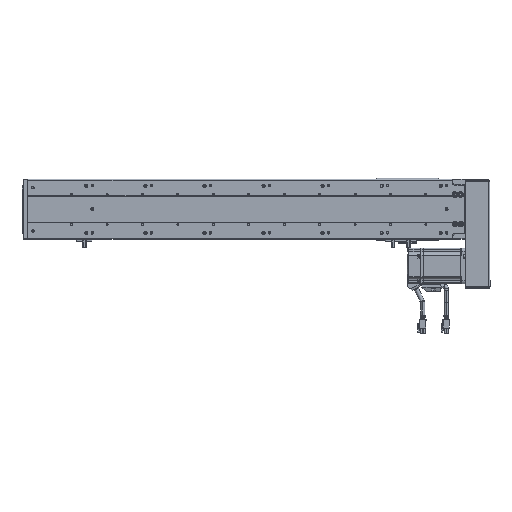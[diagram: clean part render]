
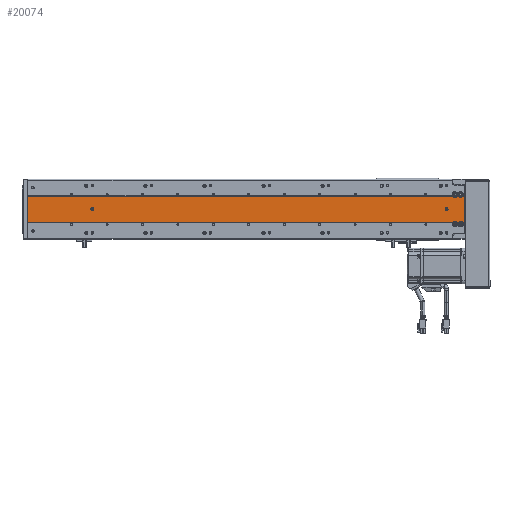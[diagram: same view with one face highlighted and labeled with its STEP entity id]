
A CAD part, front view. The second image highlights one B-rep face of the part: STEP entity #20074.
In plain terms, the highlighted planar face has unit normal (0, -1, 0).
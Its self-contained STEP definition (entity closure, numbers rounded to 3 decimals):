
#3538 = CARTESIAN_POINT ( 'NONE',  ( 161.989, 89.548, 739. ) ) ;
#3555 = DIRECTION ( 'NONE',  ( 0., 1., 0. ) ) ;
#3571 = PLANE ( 'NONE',  #86597 ) ;
#3591 = DIRECTION ( 'NONE',  ( -1., 0., 0. ) ) ;
#11712 = CARTESIAN_POINT ( 'NONE',  ( 118.817, 89.548, 739. ) ) ;
#11766 = DIRECTION ( 'NONE',  ( 0., 0., -1. ) ) ;
#11873 = CARTESIAN_POINT ( 'NONE',  ( 118.817, 89.548, 739. ) ) ;
#11914 = DIRECTION ( 'NONE',  ( 0., 0., -1. ) ) ;
#12749 = VECTOR ( 'NONE', #11766, 1000. ) ;
#12752 = LINE ( 'NONE', #11712, #12749 ) ;
#12759 = LINE ( 'NONE', #13686, #12782 ) ;
#12782 = VECTOR ( 'NONE', #13622, 1000. ) ;
#12841 = LINE ( 'NONE', #11873, #12854 ) ;
#12854 = VECTOR ( 'NONE', #11914, 1000. ) ;
#13622 = DIRECTION ( 'NONE',  ( 0., 0., -1. ) ) ;
#13686 = CARTESIAN_POINT ( 'NONE',  ( 161.989, 89.548, 739. ) ) ;
#14187 = CARTESIAN_POINT ( 'NONE',  ( 161.989, 89.548, 739. ) ) ;
#14194 = DIRECTION ( 'NONE',  ( 0., 0., -1. ) ) ;
#14385 = CARTESIAN_POINT ( 'NONE',  ( 161.989, 89.548, 739. ) ) ;
#14390 = DIRECTION ( 'NONE',  ( 1., 0., 0. ) ) ;
#14688 = CARTESIAN_POINT ( 'NONE',  ( 140.403, 89.548, 109. ) ) ;
#14694 = DIRECTION ( 'NONE',  ( 1., 0., 0. ) ) ;
#14715 = CARTESIAN_POINT ( 'NONE',  ( 140.403, 89.548, 709. ) ) ;
#14725 = DIRECTION ( 'NONE',  ( 0., -1., 0. ) ) ;
#14728 = DIRECTION ( 'NONE',  ( 0., -1., 0. ) ) ;
#14732 = DIRECTION ( 'NONE',  ( 1., 0., 0. ) ) ;
#19484 = FACE_BOUND ( 'NONE', #77305, .T. ) ;
#19555 = FACE_BOUND ( 'NONE', #77259, .T. ) ;
#19586 = FACE_OUTER_BOUND ( 'NONE', #77301, .T. ) ;
#20074 = ADVANCED_FACE ( 'NONE', ( #19484, #19555, #19586 ), #3571, .F. ) ;
#20995 = LINE ( 'NONE', #14385, #21037 ) ;
#21037 = VECTOR ( 'NONE', #14390, 1000. ) ;
#21212 = CIRCLE ( 'NONE', #70324, 2.5 ) ;
#21215 = CIRCLE ( 'NONE', #70288, 2.5 ) ;
#21528 = LINE ( 'NONE', #14187, #21535 ) ;
#21535 = VECTOR ( 'NONE', #14194, 1000. ) ;
#21701 = CIRCLE ( 'NONE', #69424, 4.75 ) ;
#21720 = VECTOR ( 'NONE', #25438, 1000. ) ;
#21746 = LINE ( 'NONE', #25378, #21720 ) ;
#21774 = LINE ( 'NONE', #25664, #21790 ) ;
#21790 = VECTOR ( 'NONE', #25713, 1000. ) ;
#21805 = CIRCLE ( 'NONE', #69371, 4.75 ) ;
#21869 = CIRCLE ( 'NONE', #69428, 2.5 ) ;
#21912 = VECTOR ( 'NONE', #26002, 1000. ) ;
#21915 = LINE ( 'NONE', #25996, #21912 ) ;
#25323 = CARTESIAN_POINT ( 'NONE',  ( 140.403, 89.548, 709. ) ) ;
#25348 = DIRECTION ( 'NONE',  ( 1., 0., 0. ) ) ;
#25371 = DIRECTION ( 'NONE',  ( 0., -1., 0. ) ) ;
#25378 = CARTESIAN_POINT ( 'NONE',  ( 118.817, 89.548, 739. ) ) ;
#25438 = DIRECTION ( 'NONE',  ( 0., 0., -1. ) ) ;
#25479 = DIRECTION ( 'NONE',  ( 0., 1., 0. ) ) ;
#25512 = CARTESIAN_POINT ( 'NONE',  ( 115.403, 89.548, 733. ) ) ;
#25514 = DIRECTION ( 'NONE',  ( -1., 0., 0. ) ) ;
#25664 = CARTESIAN_POINT ( 'NONE',  ( 161.989, 89.548, 739. ) ) ;
#25681 = CARTESIAN_POINT ( 'NONE',  ( 115.403, 89.548, 723. ) ) ;
#25687 = DIRECTION ( 'NONE',  ( -1., 0., 0. ) ) ;
#25713 = DIRECTION ( 'NONE',  ( 0., 0., -1. ) ) ;
#25731 = DIRECTION ( 'NONE',  ( 0., 1., 0. ) ) ;
#25735 = DIRECTION ( 'NONE',  ( 1., 0., 0. ) ) ;
#25774 = DIRECTION ( 'NONE',  ( 0., -1., 0. ) ) ;
#25804 = CARTESIAN_POINT ( 'NONE',  ( 140.403, 89.548, 109. ) ) ;
#25996 = CARTESIAN_POINT ( 'NONE',  ( 161.989, 89.548, 0. ) ) ;
#26002 = DIRECTION ( 'NONE',  ( 1., 0., 0. ) ) ;
#29385 = CIRCLE ( 'NONE', #69475, 2.5 ) ;
#35596 = VERTEX_POINT ( 'NONE', #64203 ) ;
#37196 = ORIENTED_EDGE ( 'NONE', *, *, #73383, .F. ) ;
#37197 = ORIENTED_EDGE ( 'NONE', *, *, #74628, .F. ) ;
#37209 = ORIENTED_EDGE ( 'NONE', *, *, #74681, .F. ) ;
#37212 = ORIENTED_EDGE ( 'NONE', *, *, #73468, .F. ) ;
#37249 = ORIENTED_EDGE ( 'NONE', *, *, #73455, .F. ) ;
#37250 = ORIENTED_EDGE ( 'NONE', *, *, #73410, .T. ) ;
#37260 = ORIENTED_EDGE ( 'NONE', *, *, #73448, .T. ) ;
#37262 = ORIENTED_EDGE ( 'NONE', *, *, #68435, .T. ) ;
#37273 = ORIENTED_EDGE ( 'NONE', *, *, #68453, .T. ) ;
#37296 = ORIENTED_EDGE ( 'NONE', *, *, #73411, .T. ) ;
#37313 = ORIENTED_EDGE ( 'NONE', *, *, #73507, .T. ) ;
#37319 = ORIENTED_EDGE ( 'NONE', *, *, #74724, .T. ) ;
#37326 = ORIENTED_EDGE ( 'NONE', *, *, #74701, .F. ) ;
#37328 = ORIENTED_EDGE ( 'NONE', *, *, #74498, .F. ) ;
#37346 = ORIENTED_EDGE ( 'NONE', *, *, #74490, .F. ) ;
#37472 = ORIENTED_EDGE ( 'NONE', *, *, #74784, .T. ) ;
#41472 = CARTESIAN_POINT ( 'NONE',  ( 165.403, 89.548, 733. ) ) ;
#41476 = DIRECTION ( 'NONE',  ( -1., 0., 0. ) ) ;
#41480 = DIRECTION ( 'NONE',  ( 0., 1., 0. ) ) ;
#41546 = CARTESIAN_POINT ( 'NONE',  ( 165.403, 89.548, 723. ) ) ;
#41569 = DIRECTION ( 'NONE',  ( 0., 1., 0. ) ) ;
#41587 = DIRECTION ( 'NONE',  ( -1., 0., 0. ) ) ;
#43907 = CIRCLE ( 'NONE', #69142, 4.75 ) ;
#43967 = CIRCLE ( 'NONE', #69148, 4.75 ) ;
#58501 = CARTESIAN_POINT ( 'NONE',  ( 118.817, 89.548, 719.698 ) ) ;
#58507 = CARTESIAN_POINT ( 'NONE',  ( 161.989, 89.548, 739. ) ) ;
#58512 = CARTESIAN_POINT ( 'NONE',  ( 118.817, 89.548, 739. ) ) ;
#58551 = CARTESIAN_POINT ( 'NONE',  ( 118.817, 89.548, 729.698 ) ) ;
#58555 = CARTESIAN_POINT ( 'NONE',  ( 118.817, 89.548, 0. ) ) ;
#58566 = CARTESIAN_POINT ( 'NONE',  ( 118.817, 89.548, 726.302 ) ) ;
#58571 = CARTESIAN_POINT ( 'NONE',  ( 161.989, 89.548, 0. ) ) ;
#64203 = CARTESIAN_POINT ( 'NONE',  ( 118.817, 89.548, 736.302 ) ) ;
#68435 = EDGE_CURVE ( 'NONE', #83161, #83156, #43907, .T. ) ;
#68453 = EDGE_CURVE ( 'NONE', #83160, #83117, #43967, .T. ) ;
#69142 = AXIS2_PLACEMENT_3D ( 'NONE', #41472, #41480, #41476 ) ;
#69148 = AXIS2_PLACEMENT_3D ( 'NONE', #41546, #41569, #41587 ) ;
#69371 = AXIS2_PLACEMENT_3D ( 'NONE', #25681, #25731, #25687 ) ;
#69424 = AXIS2_PLACEMENT_3D ( 'NONE', #25512, #25479, #25514 ) ;
#69428 = AXIS2_PLACEMENT_3D ( 'NONE', #25804, #25774, #25735 ) ;
#69475 = AXIS2_PLACEMENT_3D ( 'NONE', #25323, #25371, #25348 ) ;
#70288 = AXIS2_PLACEMENT_3D ( 'NONE', #14688, #14728, #14694 ) ;
#70324 = AXIS2_PLACEMENT_3D ( 'NONE', #14715, #14725, #14732 ) ;
#73383 = EDGE_CURVE ( 'NONE', #83373, #83388, #29385, .T. ) ;
#73410 = EDGE_CURVE ( 'NONE', #82337, #35596, #21746, .T. ) ;
#73411 = EDGE_CURVE ( 'NONE', #35596, #82339, #21701, .T. ) ;
#73448 = EDGE_CURVE ( 'NONE', #82382, #82365, #21805, .T. ) ;
#73455 = EDGE_CURVE ( 'NONE', #82371, #83156, #21774, .T. ) ;
#73468 = EDGE_CURVE ( 'NONE', #83356, #83412, #21869, .T. ) ;
#73507 = EDGE_CURVE ( 'NONE', #82360, #82379, #21915, .T. ) ;
#74490 = EDGE_CURVE ( 'NONE', #83412, #83356, #21215, .T. ) ;
#74498 = EDGE_CURVE ( 'NONE', #83388, #83373, #21212, .T. ) ;
#74628 = EDGE_CURVE ( 'NONE', #83161, #83117, #21528, .T. ) ;
#74681 = EDGE_CURVE ( 'NONE', #82337, #82371, #20995, .T. ) ;
#74701 = EDGE_CURVE ( 'NONE', #83160, #82379, #12759, .T. ) ;
#74724 = EDGE_CURVE ( 'NONE', #82365, #82360, #12752, .T. ) ;
#74784 = EDGE_CURVE ( 'NONE', #82339, #82382, #12841, .T. ) ;
#77259 = EDGE_LOOP ( 'NONE', ( #37212, #37346 ) ) ;
#77301 = EDGE_LOOP ( 'NONE', ( #37197, #37262, #37249, #37209, #37250, #37296, #37472, #37260, #37319, #37313, #37326, #37273 ) ) ;
#77305 = EDGE_LOOP ( 'NONE', ( #37196, #37328 ) ) ;
#82337 = VERTEX_POINT ( 'NONE', #58512 ) ;
#82339 = VERTEX_POINT ( 'NONE', #58551 ) ;
#82360 = VERTEX_POINT ( 'NONE', #58555 ) ;
#82365 = VERTEX_POINT ( 'NONE', #58501 ) ;
#82371 = VERTEX_POINT ( 'NONE', #58507 ) ;
#82379 = VERTEX_POINT ( 'NONE', #58571 ) ;
#82382 = VERTEX_POINT ( 'NONE', #58566 ) ;
#83117 = VERTEX_POINT ( 'NONE', #90098 ) ;
#83156 = VERTEX_POINT ( 'NONE', #90099 ) ;
#83160 = VERTEX_POINT ( 'NONE', #90116 ) ;
#83161 = VERTEX_POINT ( 'NONE', #90094 ) ;
#83356 = VERTEX_POINT ( 'NONE', #90279 ) ;
#83373 = VERTEX_POINT ( 'NONE', #90370 ) ;
#83388 = VERTEX_POINT ( 'NONE', #90380 ) ;
#83412 = VERTEX_POINT ( 'NONE', #90334 ) ;
#86597 = AXIS2_PLACEMENT_3D ( 'NONE', #3538, #3555, #3591 ) ;
#90094 = CARTESIAN_POINT ( 'NONE',  ( 161.989, 89.548, 729.698 ) ) ;
#90098 = CARTESIAN_POINT ( 'NONE',  ( 161.989, 89.548, 726.302 ) ) ;
#90099 = CARTESIAN_POINT ( 'NONE',  ( 161.989, 89.548, 736.302 ) ) ;
#90116 = CARTESIAN_POINT ( 'NONE',  ( 161.989, 89.548, 719.698 ) ) ;
#90279 = CARTESIAN_POINT ( 'NONE',  ( 142.903, 89.548, 109. ) ) ;
#90334 = CARTESIAN_POINT ( 'NONE',  ( 137.903, 89.548, 109. ) ) ;
#90370 = CARTESIAN_POINT ( 'NONE',  ( 142.903, 89.548, 709. ) ) ;
#90380 = CARTESIAN_POINT ( 'NONE',  ( 137.903, 89.548, 709. ) ) ;
